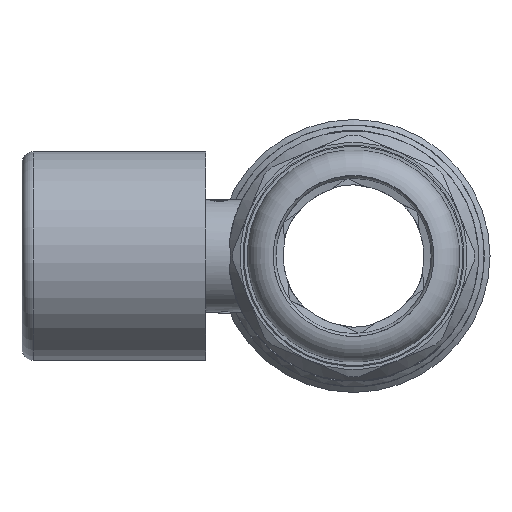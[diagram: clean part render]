
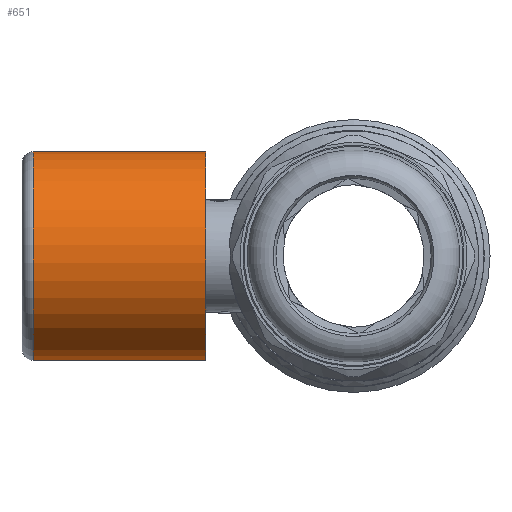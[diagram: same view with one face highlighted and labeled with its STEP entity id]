
A CAD part, left-side view. The second image highlights one B-rep face of the part: STEP entity #651.
In plain terms, the highlighted cylindrical face has radius 18.2 mm (diameter 36.4 mm), a full revolution.
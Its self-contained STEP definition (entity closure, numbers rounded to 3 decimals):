
#609=CARTESIAN_POINT('',(-18.096,55.7,1.947));
#610=VERTEX_POINT('',#609);
#611=CARTESIAN_POINT('',(0.,55.7,0.));
#612=DIRECTION('',(0.0,1.,0.0));
#613=DIRECTION('',(-0.994,0.0,0.107));
#614=AXIS2_PLACEMENT_3D('',#611,#612,#613);
#615=CIRCLE('',#614,18.2);
#616=EDGE_CURVE('',#610,#610,#615,.T.);
#632=CARTESIAN_POINT('',(0.,40.7,0.));
#633=DIRECTION('',(0.0,1.0,0.0));
#634=DIRECTION('',(-0.107,0.0,-0.994));
#635=AXIS2_PLACEMENT_3D('',#632,#633,#634);
#636=CYLINDRICAL_SURFACE('',#635,18.2);
#637=CARTESIAN_POINT('',(-18.096,25.7,1.947));
#638=VERTEX_POINT('',#637);
#639=CARTESIAN_POINT('',(0.,25.7,0.));
#640=DIRECTION('',(0.0,1.,0.0));
#641=DIRECTION('',(-0.994,0.0,0.107));
#642=AXIS2_PLACEMENT_3D('',#639,#640,#641);
#643=CIRCLE('',#642,18.2);
#644=EDGE_CURVE('',#638,#638,#643,.T.);
#645=ORIENTED_EDGE('',*,*,#644,.T.);
#646=EDGE_LOOP('',(#645));
#647=FACE_OUTER_BOUND('',#646,.T.);
#648=ORIENTED_EDGE('',*,*,#616,.F.);
#649=EDGE_LOOP('',(#648));
#650=FACE_BOUND('',#649,.T.);
#651=ADVANCED_FACE('',(#647,#650),#636,.T.);
